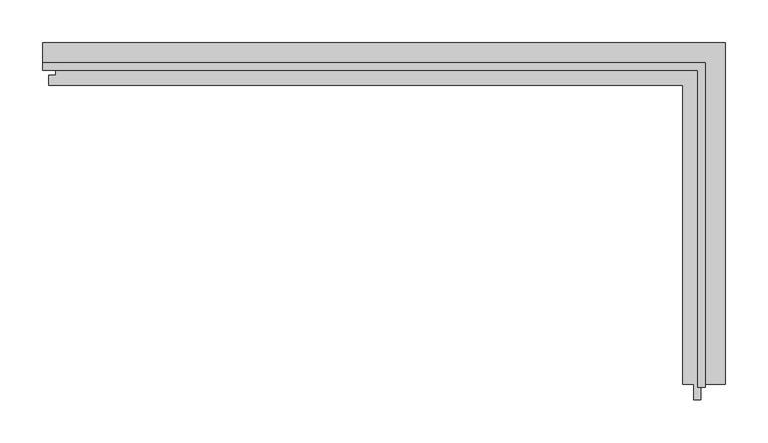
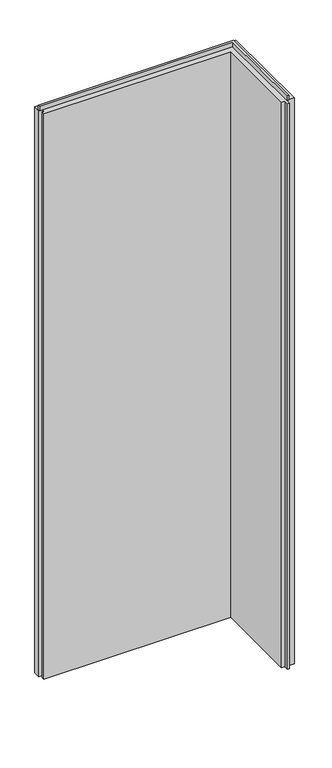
"""IFC4 building model written with IfcOpenShell, lengths in millimetres: plate geometry, Trimo_Qbiss Screen_L Corner Panel-VERTICAL : HR - FB."""

from ifc_helpers import new_model, si_unit, frame, origin, place, context, project, spatial, polyline, outline, extrude, source, transform, mapped, element, save


def plate_b050f3f3(model_context):
    return source(origin(), model_context, "Body", "SweptSolid", [
        extrude(outline(polyline([(-337.0, 93.9), (-337.0, 102.6), (439.6, 102.6), (439.6, -278.0), (430.9, -278.0), (430.9, 93.9), (-337.0, 93.9)])), frame((0.0, 0.0, 2390.5), z_axis=(0.0, 0.0, 1.0), x_axis=(1.0, 0.0, 0.0)), (0.0, 0.0, 1.0), 19.0),
        extrude(outline(polyline([(463.0, -274.0), (434.0, -274.0), (434.0, -292.5), (426.0, -292.5), (426.0, -274.0), (413.0, -274.0), (413.0, 76.0), (-330.0, 76.0), (-330.0, 88.0), (-321.5, 88.0), (-321.5, 98.0), (-337.0, 98.0), (-337.0, 126.0), (463.0, 126.0), (463.0, -274.0)])), frame((0.0, 0.0, 12.5), z_axis=(0.0, 0.0, 1.0), x_axis=(1.0, 0.0, 0.0)), (0.0, 0.0, 1.0), 2375.0),
    ])


if __name__ == "__main__":
    model = new_model("IFC4")
    model_context = context("Model", 3, world=origin())
    ifc_project = project(units=[si_unit("LENGTHUNIT", "METRE", prefix="MILLI")], contexts=[model_context])
    site = spatial("IfcSite", under=ifc_project)
    building = spatial("IfcBuilding", under=site)
    placement = place(None, origin())
    plate_shape = plate_b050f3f3(model_context)
    element("IfcPlate", 1, ObjectType="Trimo_Qbiss Screen_L Corner Panel-VERTICAL : HR - FB", at=placement, inside=building, context=model_context, shape_type="MappedRepresentation", body=[
        mapped(plate_shape, transform((0.0, 0.0, 0.0), x_axis=(1.0, 0.0, 0.0), y_axis=(0.0, 1.0, 0.0), z_axis=(0.0, 0.0, 1.0))),
    ])
    save(model, "model.ifc")
